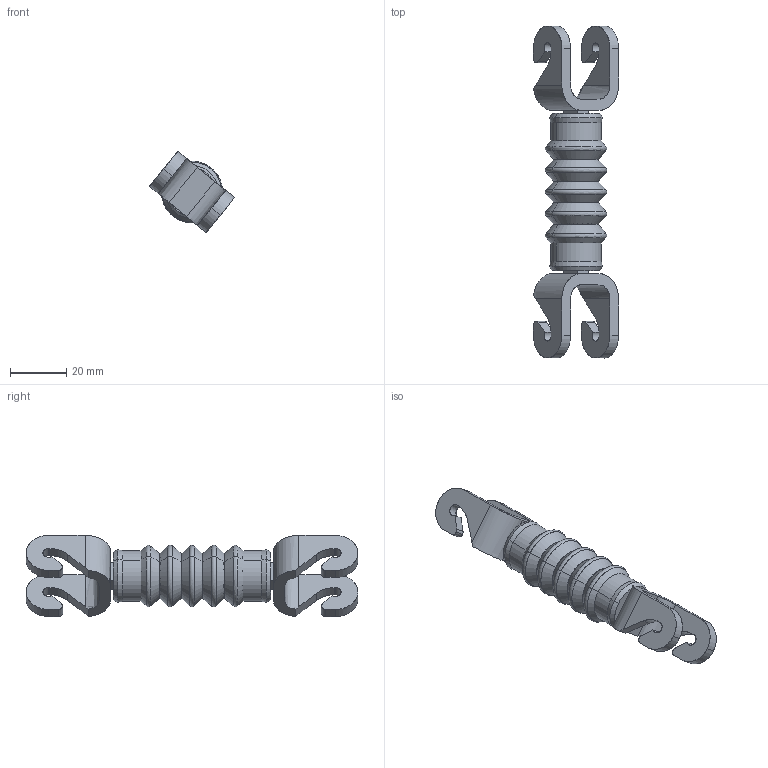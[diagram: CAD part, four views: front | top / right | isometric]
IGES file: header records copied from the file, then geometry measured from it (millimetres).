
Start section: SolidWorks IGES file using analytic representation for surfaces
Global section: file name: C:\Users\SELUHAA\Desktop\Work items\545792\IGES\IRB360_X-1130-WDS-4D_rev03_IGES_J\IRB360_X-1130-WDS-4D_rev03_LA1_CL_CAD.IGS; native system: SolidWorks 2022; preprocessor: SolidWorks 2022; author: SELUHAA; date: 231204.105925; units: millimetre
Bounding box: 30.27 x 118 x 28.83 mm (x, y, z)
Surface area: 10290.8 mm2 (no closed solid volume)
Topology: 0 solids, 0 shells, 134 faces, 1216 edges, 1216 vertices
Faces by surface type: bspline 68, revolution 66
